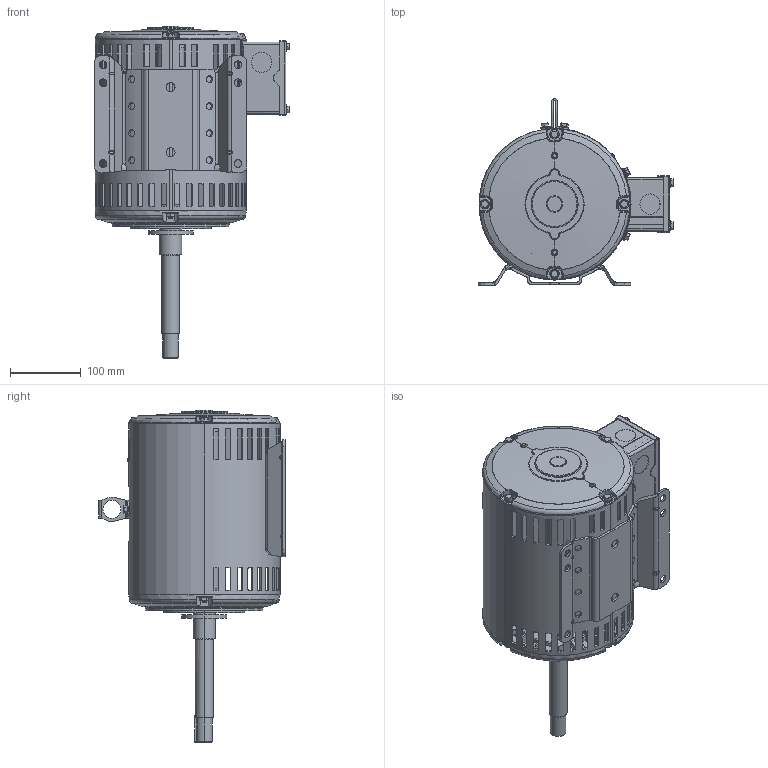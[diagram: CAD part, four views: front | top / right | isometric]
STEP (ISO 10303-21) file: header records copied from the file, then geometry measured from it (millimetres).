
FILE_DESCRIPTION (( 'STEP AP203' ), '1' );
FILE_NAME ('035572-950_Rev01.STEP', '2019-02-26T15:56:01', ( '' ), ( '' ), 'SwSTEP 2.0', 'SolidWorks 2015', '' );
FILE_SCHEMA (( 'CONFIG_CONTROL_DESIGN' ));
Products named in the file (1): 035572-950_Rev01
Bounding box: 276.49 x 263.25 x 468.88 mm (x, y, z)
Volume: 1440262.9 mm3; surface area: 832426.2 mm2
Topology: 35 solids, 39 shells, 3763 faces, 9631 edges, 5862 vertices
Faces by surface type: plane 1014, cylinder 940, bspline 932, cone 376, torus 346, sphere 155
Entity records: 155709 total; most frequent: CARTESIAN_POINT 73943, ORIENTED_EDGE 18848, DIRECTION 14728, EDGE_CURVE 9424, AXIS2_PLACEMENT_3D 5961, VERTEX_POINT 5813, EDGE_LOOP 4019, ADVANCED_FACE 3763
